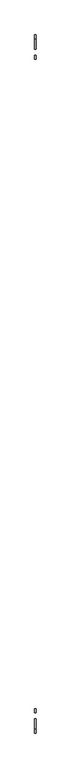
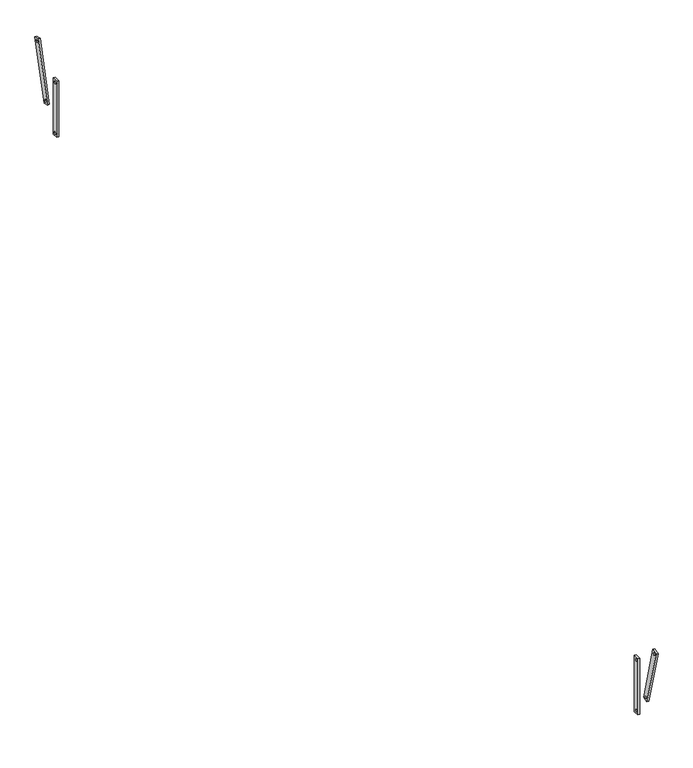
"""IFC4 building model written with IfcOpenShell, lengths in millimetres: proxy geometry, Modelos genéricos 280 : Modelos genéricos 278."""

from ifc_helpers import new_model, si_unit, point, frame, frame_2d, origin, place, context, project, spatial, polyline, circle_curve, trimmed, segment, composite_curve, outline, extrude, source, transform, mapped, element, save


def generic_models_5e7460bb(model_context):
    return source(origin(), model_context, "Body", "SweptSolid", [
        extrude(outline(polyline([(5318.6238165, 2800.0), (5318.6238165, 3200.0), (5358.6238165, 3200.0), (5358.6238165, 2800.0), (5318.6238165, 2800.0)]), holes=[composite_curve([segment(trimmed(circle_curve(frame_2d((5338.6238165, 3180.0)), 7.5), [point((5346.1238165, 3180.0))], [point((5331.1238165, 3180.0))], True, "CARTESIAN"), True, "CONTINUOUS"), segment(trimmed(circle_curve(frame_2d((5338.6238165, 3180.0)), 7.5), [point((5331.1238165, 3180.0))], [point((5346.1238165, 3180.0))], True, "CARTESIAN"), True, "CONTINUOUS")], self_intersect=False), composite_curve([segment(trimmed(circle_curve(frame_2d((5338.6238165, 2820.0)), 7.5), [point((5346.1238165, 2820.0))], [point((5331.1238165, 2820.0))], True, "CARTESIAN"), True, "CONTINUOUS"), segment(trimmed(circle_curve(frame_2d((5338.6238165, 2820.0)), 7.5), [point((5331.1238165, 2820.0))], [point((5346.1238165, 2820.0))], True, "CARTESIAN"), True, "CONTINUOUS")], self_intersect=False)]), frame((-8966.5527533, 0.0, 0.0), z_axis=(1.0, 0.0, 0.0), x_axis=(0.0, 1.0, 0.0)), (0.0, 0.0, 1.0), 12.7),
        extrude(outline(polyline([(5424.7907615, 2966.5419368), (5533.4947604, 3372.2307838), (5572.1317934, 3361.878022), (5463.4277945, 2956.1891749), (5424.7907615, 2966.5419368)]), holes=[composite_curve([segment(trimmed(circle_curve(frame_2d((5547.636896, 3347.7358864)), 7.5), [point((5554.8813397, 3345.7947435))], [point((5540.3924523, 3349.6770292))], True, "CARTESIAN"), True, "CONTINUOUS"), segment(trimmed(circle_curve(frame_2d((5547.636896, 3347.7358864)), 7.5), [point((5540.3924523, 3349.6770292))], [point((5554.8813397, 3345.7947435))], True, "CARTESIAN"), True, "CONTINUOUS")], self_intersect=False), composite_curve([segment(trimmed(circle_curve(frame_2d((5449.2856589, 2980.6840724)), 7.5), [point((5456.5301026, 2978.7429295))], [point((5442.0412152, 2982.6252152))], True, "CARTESIAN"), True, "CONTINUOUS"), segment(trimmed(circle_curve(frame_2d((5449.2856589, 2980.6840724)), 7.5), [point((5442.0412152, 2982.6252152))], [point((5456.5301026, 2978.7429295))], True, "CARTESIAN"), True, "CONTINUOUS")], self_intersect=False)]), frame((-8966.5527533, 0.0, 0.0), z_axis=(1.0, 0.0, 0.0), x_axis=(0.0, 1.0, 0.0)), (0.0, 0.0, 1.0), 12.7),
        extrude(outline(polyline([(-1421.3761835, 2800.0), (-1461.3761835, 2800.0), (-1461.3761835, 3200.0), (-1421.3761835, 3200.0), (-1421.3761835, 2800.0)]), holes=[composite_curve([segment(trimmed(circle_curve(frame_2d((-1441.3761835, 3180.0)), 7.5), [point((-1448.8761835, 3180.0))], [point((-1433.8761835, 3180.0))], True, "CARTESIAN"), True, "CONTINUOUS"), segment(trimmed(circle_curve(frame_2d((-1441.3761835, 3180.0)), 7.5), [point((-1433.8761835, 3180.0))], [point((-1448.8761835, 3180.0))], True, "CARTESIAN"), True, "CONTINUOUS")], self_intersect=False), composite_curve([segment(trimmed(circle_curve(frame_2d((-1441.3761835, 2820.0)), 7.5), [point((-1448.8761835, 2820.0))], [point((-1433.8761835, 2820.0))], True, "CARTESIAN"), True, "CONTINUOUS"), segment(trimmed(circle_curve(frame_2d((-1441.3761835, 2820.0)), 7.5), [point((-1433.8761835, 2820.0))], [point((-1448.8761835, 2820.0))], True, "CARTESIAN"), True, "CONTINUOUS")], self_intersect=False)]), frame((-8966.5527533, 0.0, 0.0), z_axis=(1.0, 0.0, 0.0), x_axis=(0.0, 1.0, 0.0)), (0.0, 0.0, 1.0), 12.7),
        extrude(outline(polyline([(-1527.5431285, 2966.5419368), (-1566.1801615, 2956.1891749), (-1674.8841605, 3361.878022), (-1636.2471274, 3372.2307838), (-1527.5431285, 2966.5419368)]), holes=[composite_curve([segment(trimmed(circle_curve(frame_2d((-1650.389263, 3347.7358864)), 7.5), [point((-1657.6337067, 3345.7947435))], [point((-1643.1448193, 3349.6770292))], True, "CARTESIAN"), True, "CONTINUOUS"), segment(trimmed(circle_curve(frame_2d((-1650.389263, 3347.7358864)), 7.5), [point((-1643.1448193, 3349.6770292))], [point((-1657.6337067, 3345.7947435))], True, "CARTESIAN"), True, "CONTINUOUS")], self_intersect=False), composite_curve([segment(trimmed(circle_curve(frame_2d((-1552.0380259, 2980.6840724)), 7.5), [point((-1559.2824696, 2978.7429295))], [point((-1544.7935822, 2982.6252152))], True, "CARTESIAN"), True, "CONTINUOUS"), segment(trimmed(circle_curve(frame_2d((-1552.0380259, 2980.6840724)), 7.5), [point((-1544.7935822, 2982.6252152))], [point((-1559.2824696, 2978.7429295))], True, "CARTESIAN"), True, "CONTINUOUS")], self_intersect=False)]), frame((-8966.5527533, 0.0, 0.0), z_axis=(1.0, 0.0, 0.0), x_axis=(0.0, 1.0, 0.0)), (0.0, 0.0, 1.0), 12.7),
    ])


if __name__ == "__main__":
    model = new_model("IFC4")
    model_context = context("Model", 3, world=origin())
    ifc_project = project(units=[si_unit("LENGTHUNIT", "METRE", prefix="MILLI")], contexts=[model_context])
    site = spatial("IfcSite", under=ifc_project)
    building = spatial("IfcBuilding", under=site)
    placement = place(None, origin())
    generic_models_shape = generic_models_5e7460bb(model_context)
    element("IfcBuildingElementProxy", 1, Name="Modelos genéricos 280 : Modelos genéricos 278", ObjectType="Modelos genéricos 280 : Modelos genéricos 278", at=placement, inside=building, context=model_context, shape_type="MappedRepresentation", body=[
        mapped(generic_models_shape, transform((0.0, 0.0, 0.0), x_axis=(1.0, 0.0, 0.0), y_axis=(0.0, 1.0, 0.0), z_axis=(0.0, 0.0, 1.0))),
    ])
    save(model, "model.ifc")
